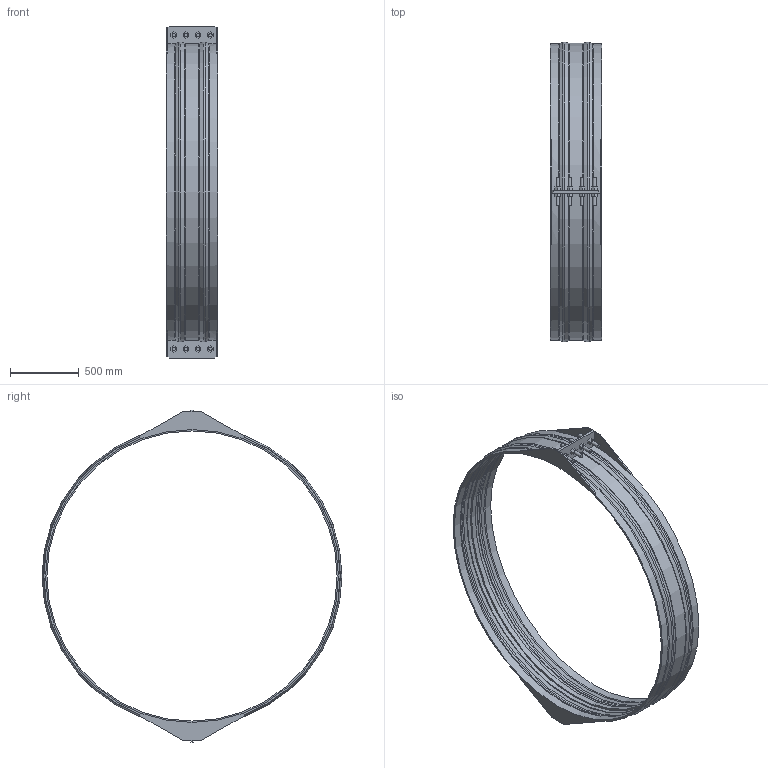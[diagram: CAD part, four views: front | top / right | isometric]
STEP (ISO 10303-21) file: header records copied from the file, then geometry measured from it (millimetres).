
FILE_DESCRIPTION(/* description */ ('VIC SS RESTRAINED COUPLING STYLE 233S (FLEX) (BRD)','CAx-IF Rec.Pracs.---Representation and Presentation of Product Manufacturing Information (PMI)---4.0---2014-10-13'),/* implementation_level */ '2;1');
FILE_NAME(/* name */ 'C:\Users\kkamble\AppData\Roaming\Autodesk\ApplicationPlugins\Back Up\Victaulic_VBSP_Coupling Flexible Restrained_Style 233S (BRD)\Victaulic_VBSP_Coupling Flexible Restrained_Style 233S (BRD)_100psi_84 (2100).stp',/* time_stamp */ '2020-09-22T18:31:29+05:00',/* author */ ('Vjadhav'),/* organization */ ('Victaulic'),/* preprocessor_version */ 'ST-DEVELOPER v17.2',/* originating_system */ 'Autodesk Inventor 2019',/* authorisation */ '');
FILE_SCHEMA (('AP203_CONFIGURATION_CONTROLLED_3D_DESIGN_OF_MECHANICAL_PARTS_AND_ASSEMBLIES_MIM_LF { 1 0 10303 203 3 1 4 }','AP242_MANAGED_MODEL_BASED_3D_ENGINEERING_MIM_LF { 1 0 10303 442 1 1 4 }'));
Length unit declared in the file: inch
Products named in the file (1): Style_233S_Type_2_100psi-84.0
Bounding box: 374.65 x 2185.69 x 2419.35 mm (x, y, z)
Volume: 40605416.9 mm3; surface area: 6247858.2 mm2
Topology: 1 solids, 1 shells, 239 faces, 625 edges, 422 vertices
Faces by surface type: plane 166, cylinder 43, torus 18, cone 12
Full cylindrical faces by diameter (mm): 25.4 x16, 2114.55 x1, 2133.6 x2, 2139.95 x2
Entity records: 7896 total; most frequent: CARTESIAN_POINT 1496, DIRECTION 1259, ORIENTED_EDGE 1250, EDGE_CURVE 625, LINE 449, VECTOR 449, VERTEX_POINT 422, AXIS2_PLACEMENT_3D 405
